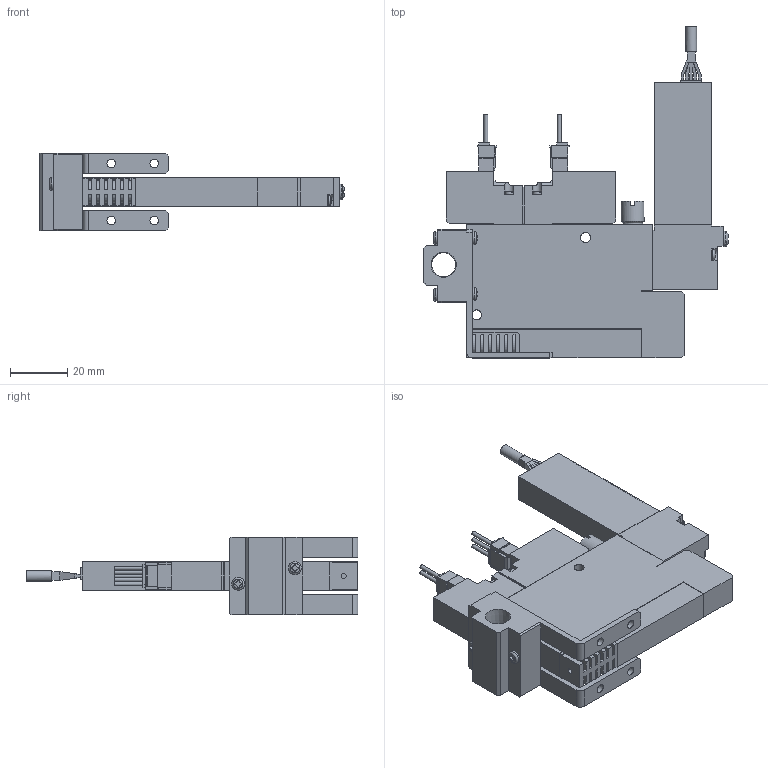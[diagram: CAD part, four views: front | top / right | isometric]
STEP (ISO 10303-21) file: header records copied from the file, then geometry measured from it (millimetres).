
FILE_DESCRIPTION(('STEP AP203'),'1');
FILE_NAME('5WS101_3D.stp','2024-09-04T06:24:31',(' '),(' '),'Spatial InterOp 3D',' ',' ');
FILE_SCHEMA(('CONFIG_CONTROL_DESIGN'));
Length unit declared in the file: millimetre
Products named in the file (5): BSC1M※※V9※5WS101; Solenoid valve W; Pressure Sensor V9; Unit-S; BaseMS10R
Assembly tree (4 placements, depth 2):
  BSC1M※※V9※5WS101
    Solenoid valve W
    Pressure Sensor V9
    Unit-S
    BaseMS10R
Bounding box: 106.35 x 115.8 x 27 mm (x, y, z)
Volume: 64795.6 mm3; surface area: 27110.2 mm2
Topology: 4 solids, 4 shells, 605 faces, 1655 edges, 1092 vertices
Faces by surface type: plane 440, cylinder 140, sphere 9, torus 9, cone 7
Full cylindrical faces by diameter (mm): 1.4 x5, 1.8 x1, 2.5 x2, 3 x8, 3.5 x8, 3.8 x1, 4 x1, 4.134 x2, 4.5 x6, 5.5 x2, 7 x1, 7.7 x1, 8 x1, 8.422 x1
Entity records: 19422 total; most frequent: CARTESIAN_POINT 4009, ORIENTED_EDGE 3136, DIRECTION 3038, EDGE_CURVE 1568, LINE 1196, VECTOR 1196, VERTEX_POINT 1070, AXIS2_PLACEMENT_3D 921
